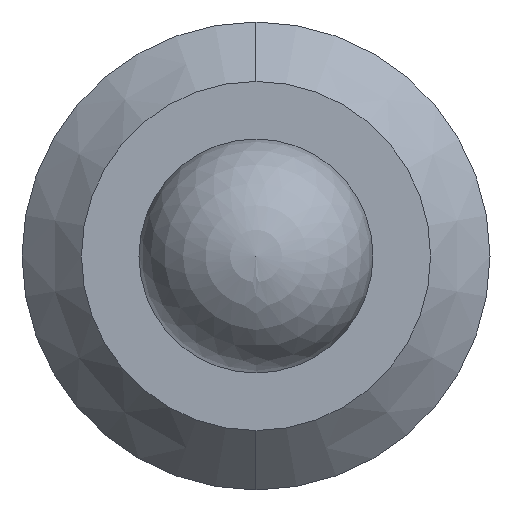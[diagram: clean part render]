
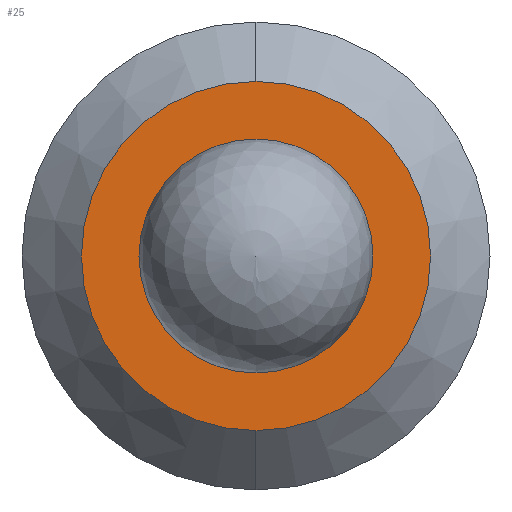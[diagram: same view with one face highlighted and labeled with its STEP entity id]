
A CAD part, left-side view. The second image highlights one B-rep face of the part: STEP entity #25.
In plain terms, the highlighted planar face has unit normal (-1, 0, 0).
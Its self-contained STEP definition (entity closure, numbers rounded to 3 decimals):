
#7 = AXIS2_PLACEMENT_3D ( 'NONE', #313, #572, #319 ) ;
#18 = CIRCLE ( 'NONE', #286, 0.5 ) ;
#25 = ADVANCED_FACE ( 'NONE', ( #215, #202 ), #461, .F. ) ;
#55 = CARTESIAN_POINT ( 'NONE',  ( 0., 0., 0.746 ) ) ;
#64 = EDGE_CURVE ( 'NONE', #558, #309, #168, .T. ) ;
#68 = CIRCLE ( 'NONE', #138, 0.5 ) ;
#105 = CARTESIAN_POINT ( 'NONE',  ( 0., 0., 0.5 ) ) ;
#113 = CARTESIAN_POINT ( 'NONE',  ( 0., 0., -0.5 ) ) ;
#117 = AXIS2_PLACEMENT_3D ( 'NONE', #240, #320, #212 ) ;
#138 = AXIS2_PLACEMENT_3D ( 'NONE', #423, #420, #564 ) ;
#161 = EDGE_CURVE ( 'NONE', #520, #511, #68, .T. ) ;
#168 = CIRCLE ( 'NONE', #7, 0.746 ) ;
#202 = FACE_OUTER_BOUND ( 'NONE', #375, .T. ) ;
#212 = DIRECTION ( 'NONE',  ( 0., 0., -1. ) ) ;
#215 = FACE_BOUND ( 'NONE', #360, .T. ) ;
#240 = CARTESIAN_POINT ( 'NONE',  ( 0., 0., 0. ) ) ;
#248 = DIRECTION ( 'NONE',  ( 0., 0., -1. ) ) ;
#257 = DIRECTION ( 'NONE',  ( -1., 0., 0. ) ) ;
#258 = CARTESIAN_POINT ( 'NONE',  ( 0., 0., 0. ) ) ;
#286 = AXIS2_PLACEMENT_3D ( 'NONE', #338, #336, #335 ) ;
#303 = EDGE_CURVE ( 'NONE', #511, #520, #18, .T. ) ;
#309 = VERTEX_POINT ( 'NONE', #359 ) ;
#313 = CARTESIAN_POINT ( 'NONE',  ( 0., 0., 0. ) ) ;
#319 = DIRECTION ( 'NONE',  ( 0., 0., -1. ) ) ;
#320 = DIRECTION ( 'NONE',  ( 1., 0., 0. ) ) ;
#335 = DIRECTION ( 'NONE',  ( 0., 0., 1. ) ) ;
#336 = DIRECTION ( 'NONE',  ( -1., 0., 0. ) ) ;
#338 = CARTESIAN_POINT ( 'NONE',  ( 0., 0., 0. ) ) ;
#342 = ORIENTED_EDGE ( 'NONE', *, *, #64, .T. ) ;
#359 = CARTESIAN_POINT ( 'NONE',  ( 0., 0., -0.746 ) ) ;
#360 = EDGE_LOOP ( 'NONE', ( #571, #570 ) ) ;
#375 = EDGE_LOOP ( 'NONE', ( #513, #342 ) ) ;
#384 = EDGE_CURVE ( 'NONE', #309, #558, #516, .T. ) ;
#420 = DIRECTION ( 'NONE',  ( -1., 0., 0. ) ) ;
#423 = CARTESIAN_POINT ( 'NONE',  ( 0., 0., 0. ) ) ;
#459 = AXIS2_PLACEMENT_3D ( 'NONE', #258, #257, #248 ) ;
#461 = PLANE ( 'NONE',  #117 ) ;
#511 = VERTEX_POINT ( 'NONE', #113 ) ;
#513 = ORIENTED_EDGE ( 'NONE', *, *, #384, .T. ) ;
#516 = CIRCLE ( 'NONE', #459, 0.746 ) ;
#520 = VERTEX_POINT ( 'NONE', #105 ) ;
#558 = VERTEX_POINT ( 'NONE', #55 ) ;
#564 = DIRECTION ( 'NONE',  ( 0., 0., 1. ) ) ;
#570 = ORIENTED_EDGE ( 'NONE', *, *, #303, .F. ) ;
#571 = ORIENTED_EDGE ( 'NONE', *, *, #161, .F. ) ;
#572 = DIRECTION ( 'NONE',  ( -1., 0., 0. ) ) ;
